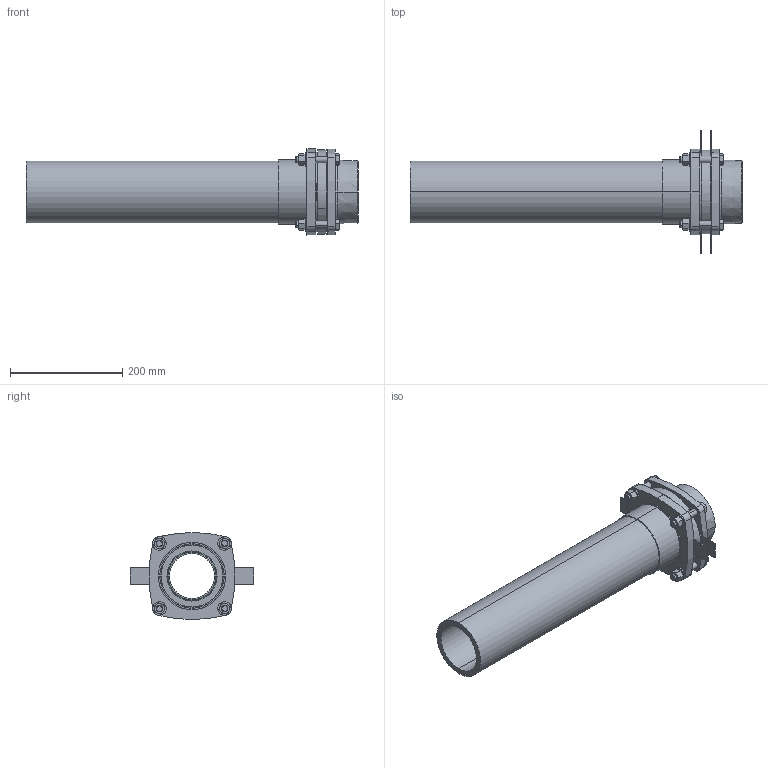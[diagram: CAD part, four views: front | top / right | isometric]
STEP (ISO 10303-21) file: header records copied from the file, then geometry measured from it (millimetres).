
FILE_DESCRIPTION (( 'STEP AP203' ), '1' );
FILE_NAME ('KP_C16-110M-L.step', '2011-08-08T12:00:11', ( '' ), ( '' ), 'SwSTEP 2.0', 'SolidWorks 2011', '' );
FILE_SCHEMA (( 'CONFIG_CONTROL_DESIGN' ));
Length unit declared in the file: millimetre
Products named in the file (1): KP_C16-110M-L
Bounding box: 592 x 220 x 154.26 mm (x, y, z)
Volume: 2619716.9 mm3; surface area: 532117.3 mm2
Topology: 1 solids, 1 shells, 405 faces, 895 edges, 532 vertices
Faces by surface type: plane 146, cone 136, cylinder 101, torus 22
Entity records: 11740 total; most frequent: CARTESIAN_POINT 2665, DIRECTION 2005, ORIENTED_EDGE 1790, EDGE_CURVE 895, AXIS2_PLACEMENT_3D 848, VERTEX_POINT 532, EDGE_LOOP 455, CIRCLE 442
